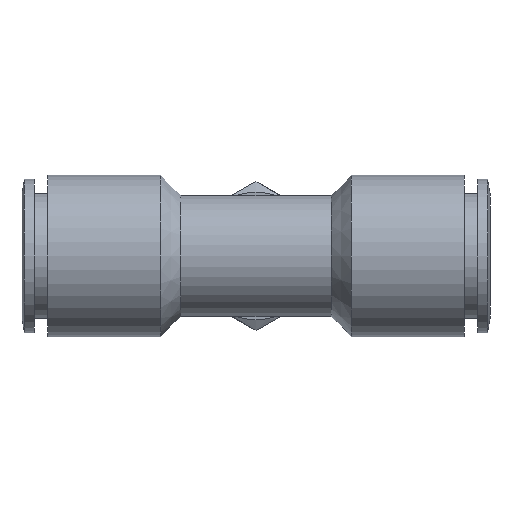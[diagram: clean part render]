
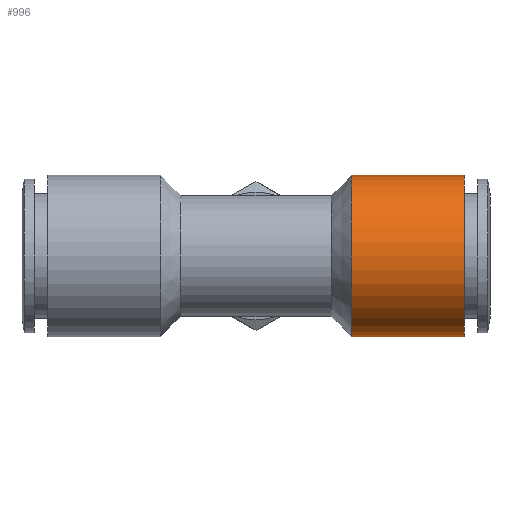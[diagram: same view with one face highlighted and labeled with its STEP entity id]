
A CAD part, left-side view. The second image highlights one B-rep face of the part: STEP entity #996.
In plain terms, the highlighted cylindrical face has radius 10 mm (diameter 20 mm), a full revolution.
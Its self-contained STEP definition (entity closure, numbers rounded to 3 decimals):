
#954=CARTESIAN_POINT('',(10.,-11.8,0.0));
#955=VERTEX_POINT('',#954);
#956=CARTESIAN_POINT('',(0.,-11.8,0.0));
#957=DIRECTION('',(0.0,-1.0,0.0));
#958=DIRECTION('',(1.0,0.0,0.0));
#959=AXIS2_PLACEMENT_3D('',#956,#957,#958);
#960=CIRCLE('',#959,10.0);
#961=EDGE_CURVE('',#955,#955,#960,.T.);
#977=CARTESIAN_POINT('',(0.,-18.8,0.0));
#978=DIRECTION('',(0.,-1.0,0.0));
#979=DIRECTION('',(1.0,0.0,0.0));
#980=AXIS2_PLACEMENT_3D('',#977,#978,#979);
#981=CYLINDRICAL_SURFACE('',#980,10.0);
#982=CARTESIAN_POINT('',(10.,-25.8,0.0));
#983=VERTEX_POINT('',#982);
#984=CARTESIAN_POINT('',(0.,-25.8,0.0));
#985=DIRECTION('',(0.0,-1.0,0.0));
#986=DIRECTION('',(1.0,0.0,0.0));
#987=AXIS2_PLACEMENT_3D('',#984,#985,#986);
#988=CIRCLE('',#987,10.0);
#989=EDGE_CURVE('',#983,#983,#988,.T.);
#990=ORIENTED_EDGE('',*,*,#989,.F.);
#991=EDGE_LOOP('',(#990));
#992=FACE_OUTER_BOUND('',#991,.T.);
#993=ORIENTED_EDGE('',*,*,#961,.T.);
#994=EDGE_LOOP('',(#993));
#995=FACE_BOUND('',#994,.T.);
#996=ADVANCED_FACE('',(#992,#995),#981,.T.);
